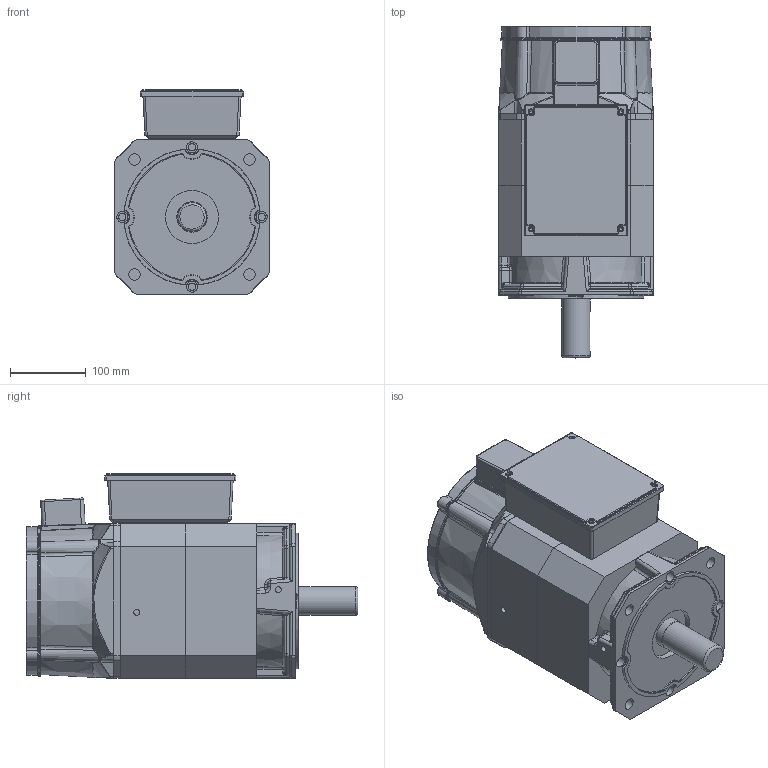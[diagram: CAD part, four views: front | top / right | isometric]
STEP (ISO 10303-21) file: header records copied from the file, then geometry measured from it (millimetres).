
FILE_DESCRIPTION(/* description */ (''),/* implementation_level */ '2;1');
FILE_NAME(/* name */ '204ZJY-4-2.2-15.stp',/* time_stamp */ '2024-01-15T15:21:08+08:00',/* author */ (''),/* organization */ (''),/* preprocessor_version */ 'ST-DEVELOPER v18.1',/* originating_system */ 'SIEMENS PLM Software NX 2000',/* authorisation */ '');
FILE_SCHEMA (('AUTOMOTIVE_DESIGN { 1 0 10303 214 3 1 1 1 }'));
Products named in the file (1): 204ZJY-4-2.2-15电机外形图
Bounding box: 204 x 438 x 270 mm (x, y, z)
Volume: 8750382 mm3; surface area: 957869.6 mm2
Topology: 9 solids, 9 shells, 1868 faces, 4653 edges, 2763 vertices
Faces by surface type: cylinder 743, torus 447, plane 355, bspline 248, cone 63, sphere 12
Full cylindrical faces by diameter (mm): 4 x10, 5 x10, 6 x10, 6.5 x4, 7 x8, 7.5 x4, 8 x4, 9.5 x8, 11 x8, 13.5 x2, 14.5 x4, 15 x5, 28 x1, 38 x1, 39.8 x1, 40 x1, 70 x1, 187 x1
Entity records: 61916 total; most frequent: CARTESIAN_POINT 21933, ORIENTED_EDGE 8866, DIRECTION 7419, EDGE_CURVE 4433, AXIS2_PLACEMENT_3D 3126, VERTEX_POINT 2704, EDGE_LOOP 2121, ADVANCED_FACE 1868
